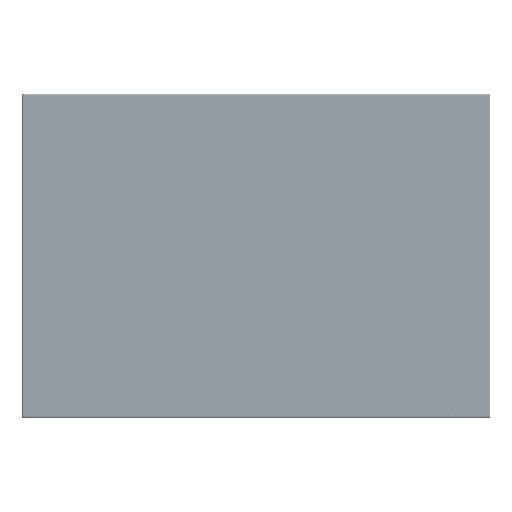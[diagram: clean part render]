
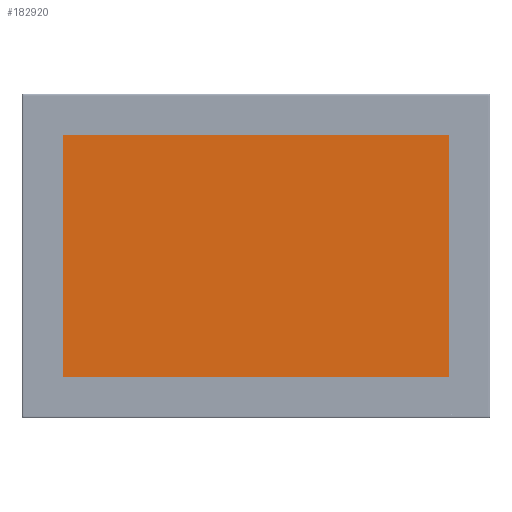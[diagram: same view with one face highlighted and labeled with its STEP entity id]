
A CAD part, top view. The second image highlights one B-rep face of the part: STEP entity #182920.
In plain terms, the highlighted planar face has unit normal (0, 0, 1).
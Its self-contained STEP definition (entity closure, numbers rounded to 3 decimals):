
#25700 = EDGE_CURVE ( 'NONE', #30642, #438911, #203776, .T. ) ;
#30088 = ORIENTED_EDGE ( 'NONE', *, *, #466565, .T. ) ;
#30642 = VERTEX_POINT ( 'NONE', #502284 ) ;
#34923 = ORIENTED_EDGE ( 'NONE', *, *, #83829, .T. ) ;
#37158 = DIRECTION ( 'NONE',  ( -1., 0., 0. ) ) ;
#62406 = VECTOR ( 'NONE', #508989, 1000. ) ;
#83254 = LINE ( 'NONE', #348607, #340711 ) ;
#83829 = EDGE_CURVE ( 'NONE', #248008, #681145, #83254, .T. ) ;
#99274 = CARTESIAN_POINT ( 'NONE',  ( -109.08, 68.4, 0. ) ) ;
#104902 = DIRECTION ( 'NONE',  ( 1., 0., 0. ) ) ;
#107217 = DIRECTION ( 'NONE',  ( 0., 0., 1. ) ) ;
#127811 = CARTESIAN_POINT ( 'NONE',  ( -109.08, -68.4, 0. ) ) ;
#182920 = ADVANCED_FACE ( 'NONE', ( #475197 ), #423277, .T. ) ;
#203776 = LINE ( 'NONE', #127811, #62406 ) ;
#227546 = LINE ( 'NONE', #99274, #252224 ) ;
#248008 = VERTEX_POINT ( 'NONE', #633965 ) ;
#252224 = VECTOR ( 'NONE', #522559, 1000. ) ;
#295337 = EDGE_CURVE ( 'NONE', #681145, #30642, #227546, .T. ) ;
#300808 = DIRECTION ( 'NONE',  ( 0., 1., 0. ) ) ;
#318848 = CARTESIAN_POINT ( 'NONE',  ( 0., 0., 0. ) ) ;
#323715 = EDGE_LOOP ( 'NONE', ( #485812, #461260, #30088, #34923 ) ) ;
#340711 = VECTOR ( 'NONE', #37158, 1000. ) ;
#348607 = CARTESIAN_POINT ( 'NONE',  ( 109.08, 68.4, 0. ) ) ;
#403812 = LINE ( 'NONE', #463196, #495344 ) ;
#423277 = PLANE ( 'NONE',  #629910 ) ;
#438911 = VERTEX_POINT ( 'NONE', #488275 ) ;
#461260 = ORIENTED_EDGE ( 'NONE', *, *, #25700, .T. ) ;
#463196 = CARTESIAN_POINT ( 'NONE',  ( 109.08, -68.4, 0. ) ) ;
#465196 = CARTESIAN_POINT ( 'NONE',  ( -109.08, 68.4, 0. ) ) ;
#466565 = EDGE_CURVE ( 'NONE', #438911, #248008, #403812, .T. ) ;
#475197 = FACE_OUTER_BOUND ( 'NONE', #323715, .T. ) ;
#485812 = ORIENTED_EDGE ( 'NONE', *, *, #295337, .T. ) ;
#488275 = CARTESIAN_POINT ( 'NONE',  ( 109.08, -68.4, 0. ) ) ;
#495344 = VECTOR ( 'NONE', #300808, 1000. ) ;
#502284 = CARTESIAN_POINT ( 'NONE',  ( -109.08, -68.4, 0. ) ) ;
#508989 = DIRECTION ( 'NONE',  ( 1., 0., 0. ) ) ;
#522559 = DIRECTION ( 'NONE',  ( 0., -1., 0. ) ) ;
#629910 = AXIS2_PLACEMENT_3D ( 'NONE', #318848, #107217, #104902 ) ;
#633965 = CARTESIAN_POINT ( 'NONE',  ( 109.08, 68.4, 0. ) ) ;
#681145 = VERTEX_POINT ( 'NONE', #465196 ) ;
